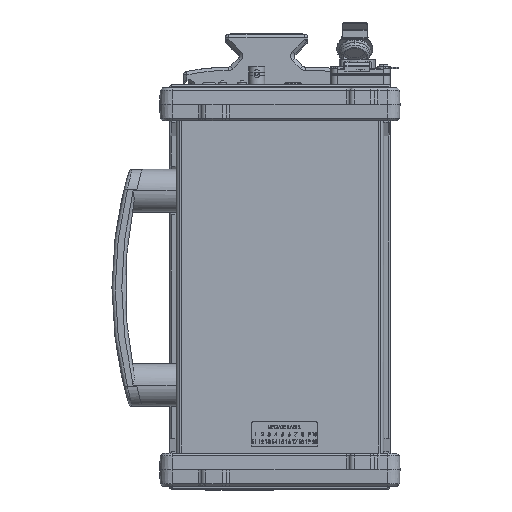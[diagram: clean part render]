
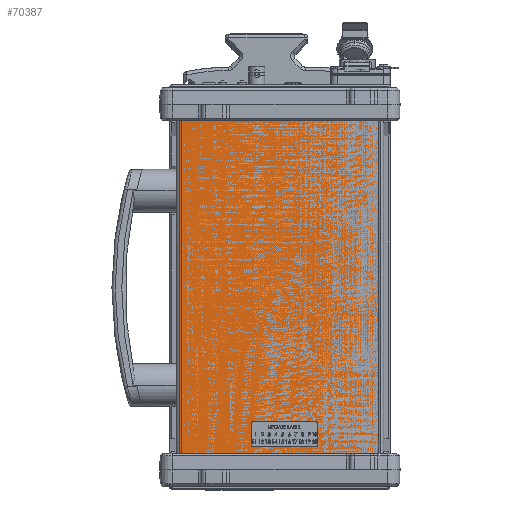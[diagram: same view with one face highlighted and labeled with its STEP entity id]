
A CAD part, front view. The second image highlights one B-rep face of the part: STEP entity #70387.
In plain terms, the highlighted planar face has unit normal (0, -1, 0).
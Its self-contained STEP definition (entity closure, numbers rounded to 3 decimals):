
#2458 = FACE_OUTER_BOUND ( 'NONE', #14476, .T. ) ;
#3771 = LINE ( 'NONE', #73053, #16993 ) ;
#3777 = DIRECTION ( 'NONE',  ( -1., 0., 0. ) ) ;
#5329 = DIRECTION ( 'NONE',  ( 0., 0., 1. ) ) ;
#9156 = PLANE ( 'NONE',  #32864 ) ;
#10964 = ORIENTED_EDGE ( 'NONE', *, *, #28751, .T. ) ;
#11075 = VECTOR ( 'NONE', #56628, 1000. ) ;
#11163 = DIRECTION ( 'NONE',  ( -1., 0., 0. ) ) ;
#13995 = DIRECTION ( 'NONE',  ( 1., 0., 0. ) ) ;
#14144 = LINE ( 'NONE', #42211, #68966 ) ;
#14476 = EDGE_LOOP ( 'NONE', ( #22822, #34313, #10964, #61084 ) ) ;
#16993 = VECTOR ( 'NONE', #5329, 1000. ) ;
#22822 = ORIENTED_EDGE ( 'NONE', *, *, #55187, .F. ) ;
#23311 = CARTESIAN_POINT ( 'NONE',  ( 61., -3., -282.16 ) ) ;
#28751 = EDGE_CURVE ( 'NONE', #46343, #60743, #50918, .T. ) ;
#32864 = AXIS2_PLACEMENT_3D ( 'NONE', #71504, #37588, #3777 ) ;
#34313 = ORIENTED_EDGE ( 'NONE', *, *, #69705, .T. ) ;
#37588 = DIRECTION ( 'NONE',  ( 0., 1., 0. ) ) ;
#39240 = VECTOR ( 'NONE', #11163, 1000. ) ;
#41689 = CARTESIAN_POINT ( 'NONE',  ( -61., -3., 122. ) ) ;
#42211 = CARTESIAN_POINT ( 'NONE',  ( 61., -3., -121. ) ) ;
#44422 = VERTEX_POINT ( 'NONE', #41689 ) ;
#46343 = VERTEX_POINT ( 'NONE', #57796 ) ;
#50918 = LINE ( 'NONE', #23311, #11075 ) ;
#54323 = LINE ( 'NONE', #61919, #39240 ) ;
#55187 = EDGE_CURVE ( 'NONE', #57115, #44422, #3771, .T. ) ;
#56628 = DIRECTION ( 'NONE',  ( 0., 0., 1. ) ) ;
#57115 = VERTEX_POINT ( 'NONE', #60229 ) ;
#57796 = CARTESIAN_POINT ( 'NONE',  ( 61., -3., -121. ) ) ;
#60229 = CARTESIAN_POINT ( 'NONE',  ( -61., -3., -121. ) ) ;
#60743 = VERTEX_POINT ( 'NONE', #71121 ) ;
#61084 = ORIENTED_EDGE ( 'NONE', *, *, #68640, .T. ) ;
#61919 = CARTESIAN_POINT ( 'NONE',  ( 61., -3., 122. ) ) ;
#68640 = EDGE_CURVE ( 'NONE', #60743, #44422, #54323, .T. ) ;
#68966 = VECTOR ( 'NONE', #13995, 1000. ) ;
#69705 = EDGE_CURVE ( 'NONE', #57115, #46343, #14144, .T. ) ;
#70387 = ADVANCED_FACE ( 'NONE', ( #2458 ), #9156, .F. ) ;
#71121 = CARTESIAN_POINT ( 'NONE',  ( 61., -3., 122. ) ) ;
#71504 = CARTESIAN_POINT ( 'NONE',  ( 61., -3., -282.16 ) ) ;
#73053 = CARTESIAN_POINT ( 'NONE',  ( -61., -3., -282.16 ) ) ;
